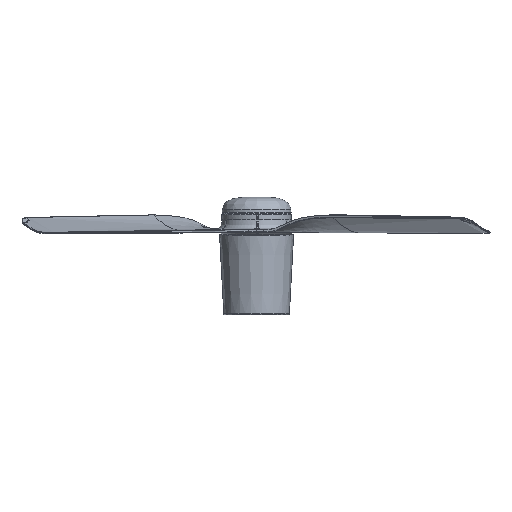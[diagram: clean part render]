
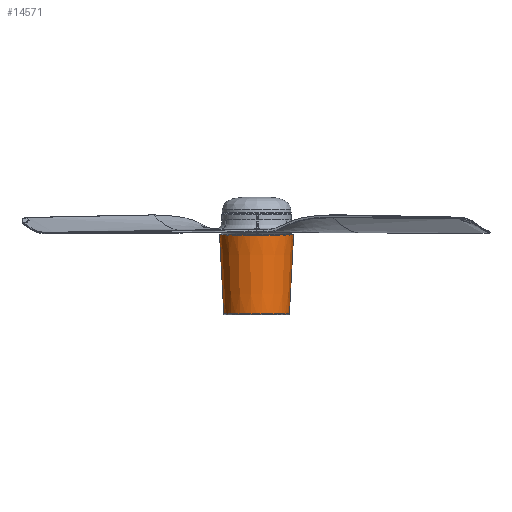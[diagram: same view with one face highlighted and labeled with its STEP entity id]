
A CAD part, front view. The second image highlights one B-rep face of the part: STEP entity #14571.
In plain terms, the highlighted conical face has half-angle 3.077 degrees and reference radius 63.435 mm.
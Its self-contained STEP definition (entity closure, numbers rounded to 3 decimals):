
#256=CONICAL_SURFACE('',#14953,63.435,0.054);
#738=FACE_OUTER_BOUND('',#1096,.T.);
#1096=EDGE_LOOP('',(#10981,#10982,#10983,#10984));
#1506=LINE('',#18902,#3659);
#1507=LINE('',#18903,#3660);
#3659=VECTOR('',#15426,304.8);
#3660=VECTOR('',#15427,304.8);
#5796=CIRCLE('',#14908,64.171);
#5814=CIRCLE('',#14950,56.813);
#5915=VERTEX_POINT('',#18282);
#5916=VERTEX_POINT('',#18283);
#5943=VERTEX_POINT('',#18774);
#5944=VERTEX_POINT('',#18836);
#8202=EDGE_CURVE('',#5915,#5916,#5796,.T.);
#8253=EDGE_CURVE('',#5944,#5943,#5814,.T.);
#8256=EDGE_CURVE('',#5915,#5943,#1506,.T.);
#8257=EDGE_CURVE('',#5944,#5916,#1507,.T.);
#10981=ORIENTED_EDGE('',*,*,#8253,.T.);
#10982=ORIENTED_EDGE('',*,*,#8256,.F.);
#10983=ORIENTED_EDGE('',*,*,#8202,.T.);
#10984=ORIENTED_EDGE('',*,*,#8257,.F.);
#14571=ADVANCED_FACE('',(#738),#256,.T.);
#14908=AXIS2_PLACEMENT_3D('',#18284,#15318,#15319);
#14950=AXIS2_PLACEMENT_3D('',#18837,#15418,#15419);
#14953=AXIS2_PLACEMENT_3D('',#18901,#15424,#15425);
#15318=DIRECTION('center_axis',(0.,0.,-1.));
#15319=DIRECTION('ref_axis',(-0.588,-0.809,0.));
#15418=DIRECTION('center_axis',(0.,0.,
1.));
#15419=DIRECTION('ref_axis',(-0.588,-0.809,0.));
#15424=DIRECTION('center_axis',(0.,0.,
1.));
#15425=DIRECTION('ref_axis',(1.,0.,0.));
#15426=DIRECTION('',(0.,-0.054,-0.999));
#15427=DIRECTION('',(0.,-0.054,0.999));
#18282=CARTESIAN_POINT('',(0.171,64.158,138.706));
#18283=CARTESIAN_POINT('',(0.171,-64.184,138.706));
#18284=CARTESIAN_POINT('Origin',(0.171,-0.013,138.706));
#18774=CARTESIAN_POINT('',(0.171,56.799,1.819));
#18836=CARTESIAN_POINT('',(0.171,-56.826,1.819));
#18837=CARTESIAN_POINT('Origin',(0.171,-0.013,
1.819));
#18901=CARTESIAN_POINT('Origin',(0.171,-0.013,
125.017));
#18902=CARTESIAN_POINT('',(0.171,64.158,138.706));
#18903=CARTESIAN_POINT('',(0.171,-56.826,1.819));
